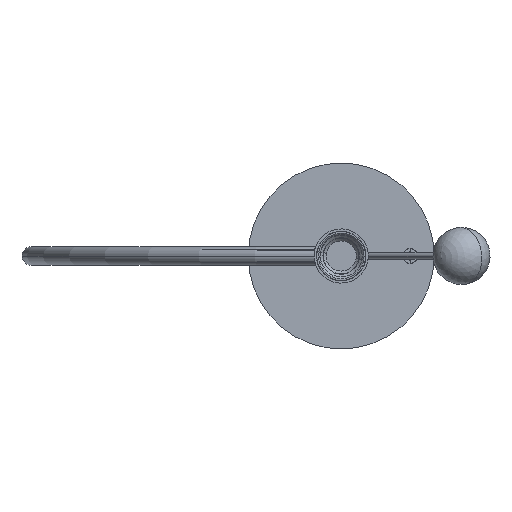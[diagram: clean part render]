
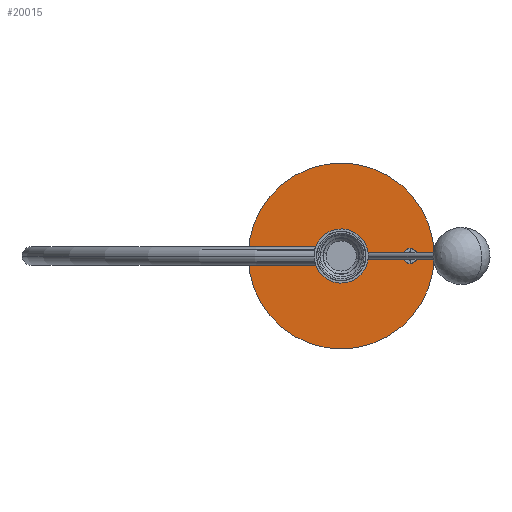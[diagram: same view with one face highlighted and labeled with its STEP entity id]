
A CAD part, front view. The second image highlights one B-rep face of the part: STEP entity #20015.
In plain terms, the highlighted planar face has unit normal (0, -1, 0).
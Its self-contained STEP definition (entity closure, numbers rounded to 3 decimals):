
#52 = CARTESIAN_POINT ( 'NONE',  ( 0., -1., -5.05 ) ) ;
#509 = ORIENTED_EDGE ( 'NONE', *, *, #17242, .F. ) ;
#663 = FACE_BOUND ( 'NONE', #14440, .T. ) ;
#820 = CARTESIAN_POINT ( 'NONE',  ( 0., -1., 0. ) ) ;
#1062 = ORIENTED_EDGE ( 'NONE', *, *, #8435, .F. ) ;
#1129 = DIRECTION ( 'NONE',  ( 0., -1., 0. ) ) ;
#1232 = CARTESIAN_POINT ( 'NONE',  ( 0., -1., 0. ) ) ;
#1318 = AXIS2_PLACEMENT_3D ( 'NONE', #2721, #14665, #6024 ) ;
#1932 = ORIENTED_EDGE ( 'NONE', *, *, #2991, .F. ) ;
#2242 = CIRCLE ( 'NONE', #20960, 60. ) ;
#2367 = CARTESIAN_POINT ( 'NONE',  ( 0., -1., -60. ) ) ;
#2533 = ORIENTED_EDGE ( 'NONE', *, *, #5276, .T. ) ;
#2721 = CARTESIAN_POINT ( 'NONE',  ( -44.45, -1., 0. ) ) ;
#2991 = EDGE_CURVE ( 'NONE', #6571, #6786, #14046, .T. ) ;
#3271 = CARTESIAN_POINT ( 'NONE',  ( 44.45, -1., -4.7 ) ) ;
#3967 = DIRECTION ( 'NONE',  ( 0., -1., 0. ) ) ;
#4071 = CIRCLE ( 'NONE', #5480, 4.7 ) ;
#4073 = PLANE ( 'NONE',  #11819 ) ;
#4506 = AXIS2_PLACEMENT_3D ( 'NONE', #17937, #1129, #6315 ) ;
#4529 = DIRECTION ( 'NONE',  ( 0., 1., 0. ) ) ;
#4985 = CARTESIAN_POINT ( 'NONE',  ( 0., -1., 0. ) ) ;
#5187 = EDGE_LOOP ( 'NONE', ( #1062, #20907 ) ) ;
#5276 = EDGE_CURVE ( 'NONE', #12895, #17838, #19396, .T. ) ;
#5448 = DIRECTION ( 'NONE',  ( 0., 0., -1. ) ) ;
#5480 = AXIS2_PLACEMENT_3D ( 'NONE', #19661, #19776, #21323 ) ;
#5509 = FACE_BOUND ( 'NONE', #5187, .T. ) ;
#6024 = DIRECTION ( 'NONE',  ( 0., 0., -1. ) ) ;
#6315 = DIRECTION ( 'NONE',  ( 0., 0., -1. ) ) ;
#6571 = VERTEX_POINT ( 'NONE', #19022 ) ;
#6786 = VERTEX_POINT ( 'NONE', #3271 ) ;
#7175 = CARTESIAN_POINT ( 'NONE',  ( 0., -1., 0. ) ) ;
#7342 = CARTESIAN_POINT ( 'NONE',  ( 0., -1., 0. ) ) ;
#7389 = AXIS2_PLACEMENT_3D ( 'NONE', #820, #8200, #16280 ) ;
#7804 = CARTESIAN_POINT ( 'NONE',  ( 0., -1., 5.05 ) ) ;
#8105 = VERTEX_POINT ( 'NONE', #15019 ) ;
#8200 = DIRECTION ( 'NONE',  ( 0., 1., 0. ) ) ;
#8238 = AXIS2_PLACEMENT_3D ( 'NONE', #1232, #4529, #11280 ) ;
#8311 = DIRECTION ( 'NONE',  ( 0., -1., 0. ) ) ;
#8331 = ORIENTED_EDGE ( 'NONE', *, *, #17421, .F. ) ;
#8435 = EDGE_CURVE ( 'NONE', #13086, #8105, #10126, .T. ) ;
#8618 = VERTEX_POINT ( 'NONE', #2367 ) ;
#8937 = CIRCLE ( 'NONE', #17438, 5.05 ) ;
#8989 = DIRECTION ( 'NONE',  ( 0., 1., 0. ) ) ;
#9291 = VERTEX_POINT ( 'NONE', #17908 ) ;
#10085 = DIRECTION ( 'NONE',  ( 0., 0., -1. ) ) ;
#10126 = CIRCLE ( 'NONE', #1318, 4.7 ) ;
#11280 = DIRECTION ( 'NONE',  ( 0., 0., -1. ) ) ;
#11819 = AXIS2_PLACEMENT_3D ( 'NONE', #7175, #3967, #17357 ) ;
#12878 = AXIS2_PLACEMENT_3D ( 'NONE', #16725, #8311, #15066 ) ;
#12895 = VERTEX_POINT ( 'NONE', #52 ) ;
#13086 = VERTEX_POINT ( 'NONE', #20409 ) ;
#13431 = EDGE_CURVE ( 'NONE', #6786, #6571, #18561, .T. ) ;
#14046 = CIRCLE ( 'NONE', #4506, 4.7 ) ;
#14440 = EDGE_LOOP ( 'NONE', ( #17979, #2533 ) ) ;
#14665 = DIRECTION ( 'NONE',  ( 0., -1., 0. ) ) ;
#15019 = CARTESIAN_POINT ( 'NONE',  ( -44.45, -1., 4.7 ) ) ;
#15066 = DIRECTION ( 'NONE',  ( 0., 0., -1. ) ) ;
#15347 = EDGE_LOOP ( 'NONE', ( #8331, #509 ) ) ;
#16280 = DIRECTION ( 'NONE',  ( 0., 0., -1. ) ) ;
#16725 = CARTESIAN_POINT ( 'NONE',  ( 44.45, -1., 0. ) ) ;
#16961 = EDGE_CURVE ( 'NONE', #17838, #12895, #8937, .T. ) ;
#17242 = EDGE_CURVE ( 'NONE', #8618, #9291, #2242, .T. ) ;
#17357 = DIRECTION ( 'NONE',  ( 0., 0., -1. ) ) ;
#17421 = EDGE_CURVE ( 'NONE', #9291, #8618, #17781, .T. ) ;
#17438 = AXIS2_PLACEMENT_3D ( 'NONE', #7342, #8989, #5448 ) ;
#17781 = CIRCLE ( 'NONE', #8238, 60. ) ;
#17838 = VERTEX_POINT ( 'NONE', #7804 ) ;
#17908 = CARTESIAN_POINT ( 'NONE',  ( 0., -1., 60. ) ) ;
#17937 = CARTESIAN_POINT ( 'NONE',  ( 44.45, -1., 0. ) ) ;
#17979 = ORIENTED_EDGE ( 'NONE', *, *, #16961, .T. ) ;
#18561 = CIRCLE ( 'NONE', #12878, 4.7 ) ;
#19022 = CARTESIAN_POINT ( 'NONE',  ( 44.45, -1., 4.7 ) ) ;
#19396 = CIRCLE ( 'NONE', #7389, 5.05 ) ;
#19661 = CARTESIAN_POINT ( 'NONE',  ( -44.45, -1., 0. ) ) ;
#19776 = DIRECTION ( 'NONE',  ( 0., -1., 0. ) ) ;
#19885 = ORIENTED_EDGE ( 'NONE', *, *, #13431, .F. ) ;
#20015 = ADVANCED_FACE ( 'NONE', ( #21123, #5509, #663, #20901 ), #4073, .T. ) ;
#20062 = DIRECTION ( 'NONE',  ( 0., 1., 0. ) ) ;
#20409 = CARTESIAN_POINT ( 'NONE',  ( -44.45, -1., -4.7 ) ) ;
#20568 = EDGE_CURVE ( 'NONE', #8105, #13086, #4071, .T. ) ;
#20594 = EDGE_LOOP ( 'NONE', ( #19885, #1932 ) ) ;
#20901 = FACE_OUTER_BOUND ( 'NONE', #15347, .T. ) ;
#20907 = ORIENTED_EDGE ( 'NONE', *, *, #20568, .F. ) ;
#20960 = AXIS2_PLACEMENT_3D ( 'NONE', #4985, #20062, #10085 ) ;
#21123 = FACE_BOUND ( 'NONE', #20594, .T. ) ;
#21323 = DIRECTION ( 'NONE',  ( 0., 0., -1. ) ) ;
